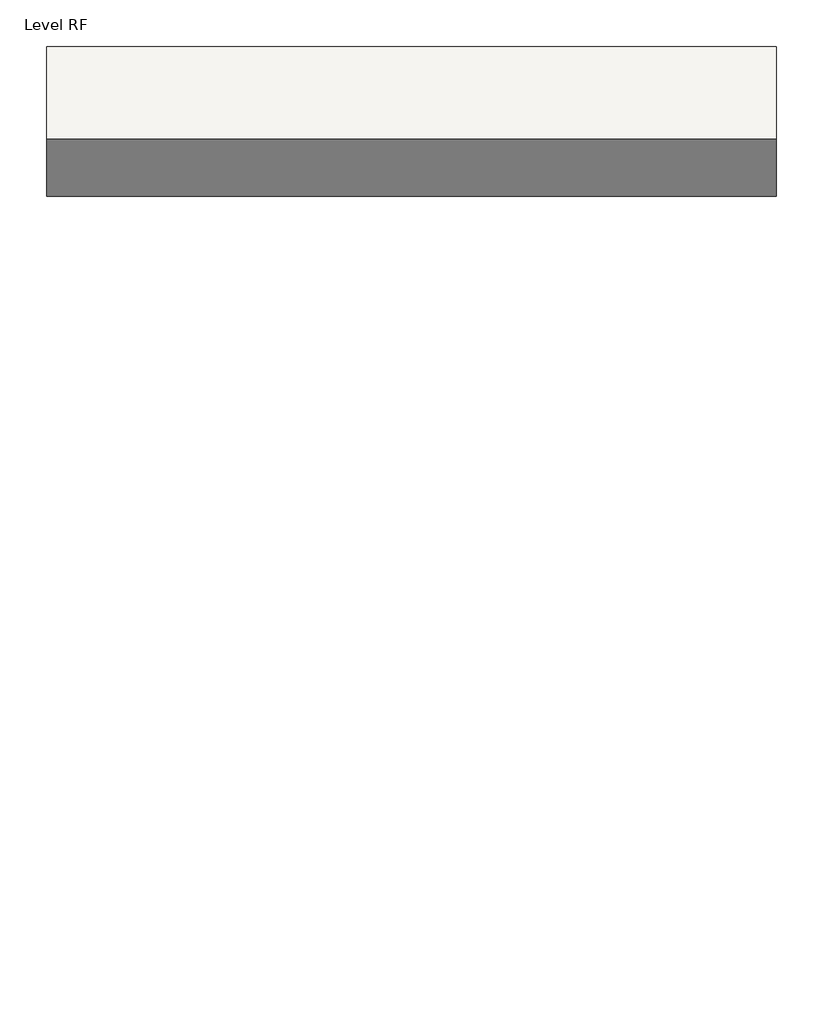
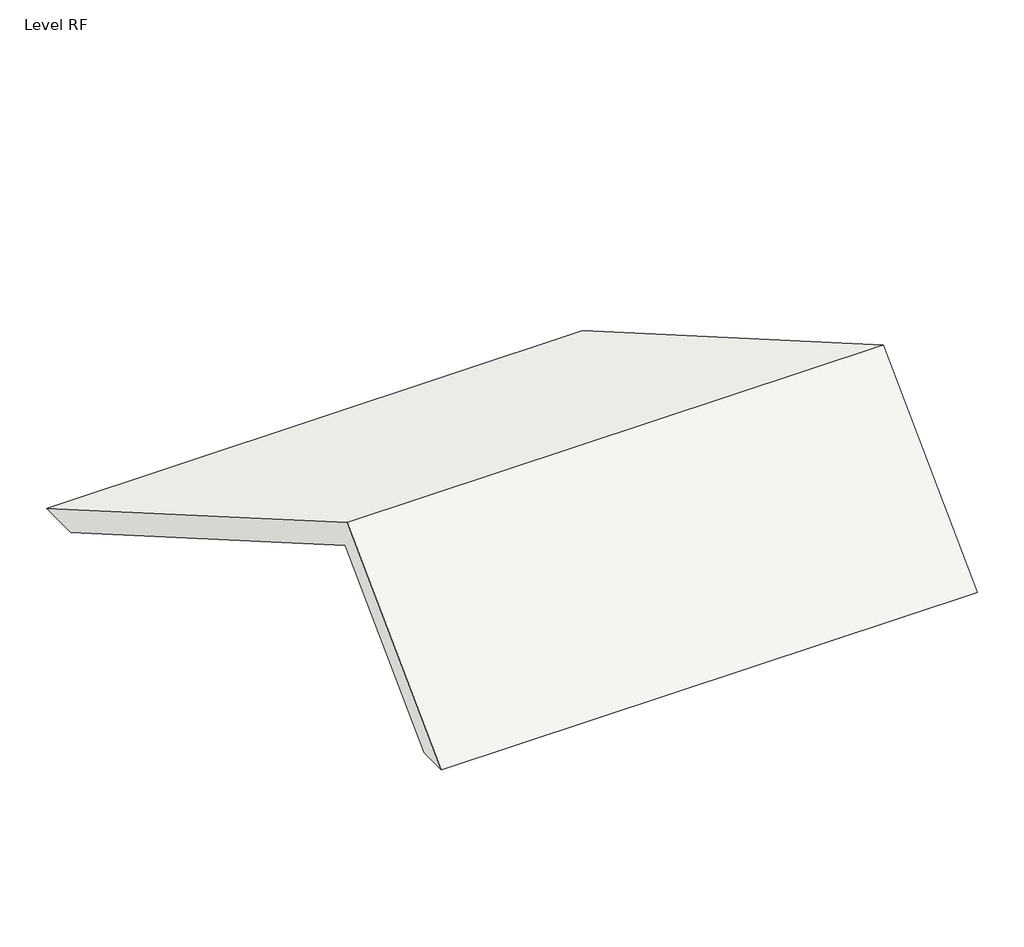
# One storey: 1 roof.
"""IFC4 building model written with IfcOpenShell, lengths in millimetres."""

from ifc_helpers import new_model, si_unit, frame, origin, place, context, project, spatial, polyline, outline, extrude, element, save

model = new_model("IFC4")

# Units and contexts
model_context = context("Model", 3, world=origin())
ifc_project = project(units=[si_unit("LENGTHUNIT", "METRE", prefix="MILLI")], contexts=[model_context])

# Site, building, storey
site = spatial("IfcSite", under=ifc_project)
building = spatial("IfcBuilding", under=site)
storey = spatial("IfcBuildingStorey", under=building, Name="Level RF", Elevation=7600.0)

# Roof
placement = place(None, origin())
element("IfcRoof", 1, ObjectType="Generic - 400mm", at=placement, inside=storey, context=model_context, shape_type="SweptSolid", body=[
    extrude(outline(polyline([(29853.3656485, 10665.6854249), (32931.8053737, 13744.1251501), (42773.7423017, 8061.8802154), (41973.7423017, 8061.8802154), (32997.6152395, 13244.249591), (30419.0510734, 10665.6854249), (29853.3656485, 10665.6854249)])), frame((-2296.4220618, 0.0, 0.0), z_axis=(1.0, 0.0, 0.0), x_axis=(0.0, 1.0, 0.0)), (0.0, 0.0, 1.0), 10129.9164093),
])

save(model, "model.ifc")
